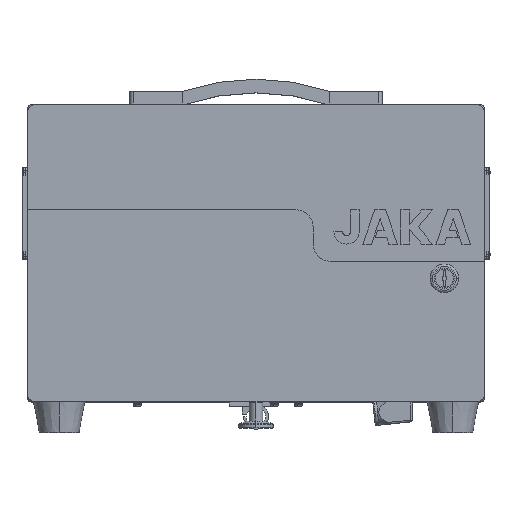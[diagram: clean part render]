
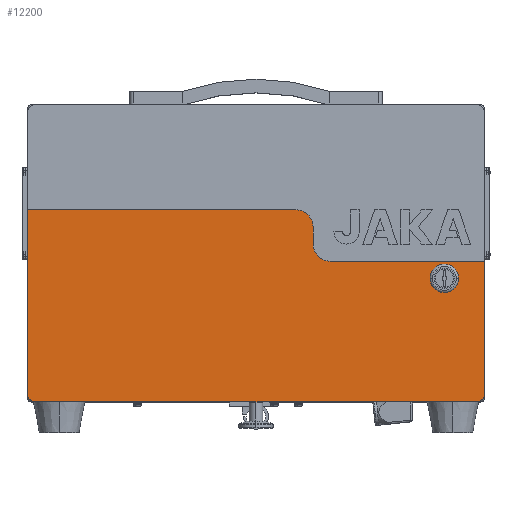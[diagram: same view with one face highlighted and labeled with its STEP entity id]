
A CAD part, top view. The second image highlights one B-rep face of the part: STEP entity #12200.
In plain terms, the highlighted planar face has unit normal (0, 0, 1).
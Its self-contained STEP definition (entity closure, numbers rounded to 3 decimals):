
#1950 = CARTESIAN_POINT ( 'NONE',  ( 165., 135., 127. ) ) ;
#2146 = ORIENTED_EDGE ( 'NONE', *, *, #75751, .F. ) ;
#2164 = DIRECTION ( 'NONE',  ( 0., 0., -1. ) ) ;
#3004 = ORIENTED_EDGE ( 'NONE', *, *, #4657, .F. ) ;
#4657 = EDGE_CURVE ( 'NONE', #26049, #40468, #6131, .T. ) ;
#6063 = EDGE_CURVE ( 'NONE', #70307, #12647, #90070, .T. ) ;
#6131 = CIRCLE ( 'NONE', #87465, 12.5 ) ;
#6917 = CARTESIAN_POINT ( 'NONE',  ( 35., 195., 127. ) ) ;
#7049 = AXIS2_PLACEMENT_3D ( 'NONE', #26816, #43097, #93520 ) ;
#9228 = VERTEX_POINT ( 'NONE', #35441 ) ;
#9947 = DIRECTION ( 'NONE',  ( 1., 0., 0. ) ) ;
#12200 = ADVANCED_FACE ( 'NONE', ( #97724, #39329 ), #18495, .F. ) ;
#12308 = VECTOR ( 'NONE', #12316, 1000. ) ;
#12316 = DIRECTION ( 'NONE',  ( 1., 0., 0. ) ) ;
#12647 = VERTEX_POINT ( 'NONE', #6917 ) ;
#12979 = EDGE_CURVE ( 'NONE', #9228, #89115, #22113, .T. ) ;
#13192 = EDGE_CURVE ( 'NONE', #51273, #89115, #86894, .T. ) ;
#14364 = ORIENTED_EDGE ( 'NONE', *, *, #95375, .F. ) ;
#18092 = VERTEX_POINT ( 'NONE', #44093 ) ;
#18495 = PLANE ( 'NONE',  #61717 ) ;
#21563 = DIRECTION ( 'NONE',  ( 0., 1., 0. ) ) ;
#21912 = DIRECTION ( 'NONE',  ( 0., 0., 1. ) ) ;
#22113 = CIRCLE ( 'NONE', #92388, 6. ) ;
#22931 = VERTEX_POINT ( 'NONE', #38199 ) ;
#23689 = DIRECTION ( 'NONE',  ( 0., -1., 0. ) ) ;
#24010 = CARTESIAN_POINT ( 'NONE',  ( -194., 27., 127. ) ) ;
#24031 = ORIENTED_EDGE ( 'NONE', *, *, #13192, .F. ) ;
#26049 = VERTEX_POINT ( 'NONE', #47216 ) ;
#26785 = DIRECTION ( 'NONE',  ( 0., 1., 0. ) ) ;
#26816 = CARTESIAN_POINT ( 'NONE',  ( -194., 33., 127. ) ) ;
#27264 = CIRCLE ( 'NONE', #80496, 15. ) ;
#27747 = DIRECTION ( 'NONE',  ( 0., 0., 1. ) ) ;
#32038 = ORIENTED_EDGE ( 'NONE', *, *, #106051, .F. ) ;
#35441 = CARTESIAN_POINT ( 'NONE',  ( 194., 27., 127. ) ) ;
#36535 = ORIENTED_EDGE ( 'NONE', *, *, #42814, .F. ) ;
#36567 = CARTESIAN_POINT ( 'NONE',  ( -200., 195., 127. ) ) ;
#38199 = CARTESIAN_POINT ( 'NONE',  ( 65., 150., 127. ) ) ;
#38780 = CARTESIAN_POINT ( 'NONE',  ( -200., 33., 127. ) ) ;
#39132 = VERTEX_POINT ( 'NONE', #24010 ) ;
#39319 = CIRCLE ( 'NONE', #7049, 6. ) ;
#39329 = FACE_OUTER_BOUND ( 'NONE', #46283, .T. ) ;
#40468 = VERTEX_POINT ( 'NONE', #75050 ) ;
#41676 = CARTESIAN_POINT ( 'NONE',  ( 200., 27., 127. ) ) ;
#41924 = CARTESIAN_POINT ( 'NONE',  ( 200., 33., 127. ) ) ;
#41994 = VECTOR ( 'NONE', #83766, 1000. ) ;
#42814 = EDGE_CURVE ( 'NONE', #9228, #39132, #99138, .T. ) ;
#43097 = DIRECTION ( 'NONE',  ( 0., 0., 1. ) ) ;
#44093 = CARTESIAN_POINT ( 'NONE',  ( 50., 165., 127. ) ) ;
#44638 = DIRECTION ( 'NONE',  ( 0., 0., -1. ) ) ;
#45211 = CARTESIAN_POINT ( 'NONE',  ( -200., 195., 127. ) ) ;
#45422 = CARTESIAN_POINT ( 'NONE',  ( 200., 150., 127. ) ) ;
#46283 = EDGE_LOOP ( 'NONE', ( #24031, #14364, #32038, #74640, #59487, #93587, #2146, #49588, #36535, #67645 ) ) ;
#47216 = CARTESIAN_POINT ( 'NONE',  ( 152.5, 135., 127. ) ) ;
#49588 = ORIENTED_EDGE ( 'NONE', *, *, #71058, .T. ) ;
#49616 = ORIENTED_EDGE ( 'NONE', *, *, #57381, .F. ) ;
#51273 = VERTEX_POINT ( 'NONE', #45422 ) ;
#52418 = CIRCLE ( 'NONE', #52952, 12.5 ) ;
#52663 = VECTOR ( 'NONE', #98567, 1000. ) ;
#52952 = AXIS2_PLACEMENT_3D ( 'NONE', #1950, #76640, #9947 ) ;
#54687 = LINE ( 'NONE', #87933, #55959 ) ;
#55879 = VERTEX_POINT ( 'NONE', #38780 ) ;
#55959 = VECTOR ( 'NONE', #63253, 1000. ) ;
#57381 = EDGE_CURVE ( 'NONE', #40468, #26049, #52418, .T. ) ;
#59487 = ORIENTED_EDGE ( 'NONE', *, *, #99029, .F. ) ;
#61717 = AXIS2_PLACEMENT_3D ( 'NONE', #101444, #2164, #26785 ) ;
#61962 = VERTEX_POINT ( 'NONE', #82812 ) ;
#62481 = LINE ( 'NONE', #81317, #85895 ) ;
#62858 = DIRECTION ( 'NONE',  ( 0., 0., 1. ) ) ;
#63253 = DIRECTION ( 'NONE',  ( 0., -1., 0. ) ) ;
#65191 = CARTESIAN_POINT ( 'NONE',  ( 65., 150., 127. ) ) ;
#65247 = EDGE_LOOP ( 'NONE', ( #3004, #49616 ) ) ;
#65815 = LINE ( 'NONE', #65191, #52663 ) ;
#67645 = ORIENTED_EDGE ( 'NONE', *, *, #12979, .T. ) ;
#70307 = VERTEX_POINT ( 'NONE', #36567 ) ;
#71058 = EDGE_CURVE ( 'NONE', #55879, #39132, #39319, .T. ) ;
#71595 = CARTESIAN_POINT ( 'NONE',  ( 194., 33., 127. ) ) ;
#71957 = CARTESIAN_POINT ( 'NONE',  ( 165., 135., 127. ) ) ;
#73666 = AXIS2_PLACEMENT_3D ( 'NONE', #103041, #44638, #102676 ) ;
#74640 = ORIENTED_EDGE ( 'NONE', *, *, #89511, .F. ) ;
#75050 = CARTESIAN_POINT ( 'NONE',  ( 177.5, 135., 127. ) ) ;
#75244 = CIRCLE ( 'NONE', #73666, 15. ) ;
#75751 = EDGE_CURVE ( 'NONE', #55879, #70307, #62481, .T. ) ;
#76640 = DIRECTION ( 'NONE',  ( 0., 0., 1. ) ) ;
#80496 = AXIS2_PLACEMENT_3D ( 'NONE', #86093, #27747, #85741 ) ;
#81317 = CARTESIAN_POINT ( 'NONE',  ( -200., 27., 127. ) ) ;
#82812 = CARTESIAN_POINT ( 'NONE',  ( 50., 180., 127. ) ) ;
#83766 = DIRECTION ( 'NONE',  ( -1., 0., 0. ) ) ;
#85553 = VECTOR ( 'NONE', #23689, 1000. ) ;
#85741 = DIRECTION ( 'NONE',  ( 0., 1., 0. ) ) ;
#85895 = VECTOR ( 'NONE', #89617, 1000. ) ;
#86093 = CARTESIAN_POINT ( 'NONE',  ( 65., 165., 127. ) ) ;
#86894 = LINE ( 'NONE', #89333, #85553 ) ;
#87465 = AXIS2_PLACEMENT_3D ( 'NONE', #71957, #21912, #95843 ) ;
#87933 = CARTESIAN_POINT ( 'NONE',  ( 50., 180., 127. ) ) ;
#89115 = VERTEX_POINT ( 'NONE', #41924 ) ;
#89333 = CARTESIAN_POINT ( 'NONE',  ( 200., 287., 127. ) ) ;
#89511 = EDGE_CURVE ( 'NONE', #61962, #18092, #54687, .T. ) ;
#89617 = DIRECTION ( 'NONE',  ( 0., 1., 0. ) ) ;
#90070 = LINE ( 'NONE', #45211, #12308 ) ;
#92388 = AXIS2_PLACEMENT_3D ( 'NONE', #71595, #62858, #21563 ) ;
#93520 = DIRECTION ( 'NONE',  ( 0., 1., 0. ) ) ;
#93587 = ORIENTED_EDGE ( 'NONE', *, *, #6063, .F. ) ;
#95375 = EDGE_CURVE ( 'NONE', #22931, #51273, #65815, .T. ) ;
#95843 = DIRECTION ( 'NONE',  ( 1., 0., 0. ) ) ;
#97724 = FACE_BOUND ( 'NONE', #65247, .T. ) ;
#98567 = DIRECTION ( 'NONE',  ( 1., 0., 0. ) ) ;
#99029 = EDGE_CURVE ( 'NONE', #12647, #61962, #75244, .T. ) ;
#99138 = LINE ( 'NONE', #41676, #41994 ) ;
#101444 = CARTESIAN_POINT ( 'NONE',  ( 223., 9., 127. ) ) ;
#102676 = DIRECTION ( 'NONE',  ( 0., 1., 0. ) ) ;
#103041 = CARTESIAN_POINT ( 'NONE',  ( 35., 180., 127. ) ) ;
#106051 = EDGE_CURVE ( 'NONE', #18092, #22931, #27264, .T. ) ;
